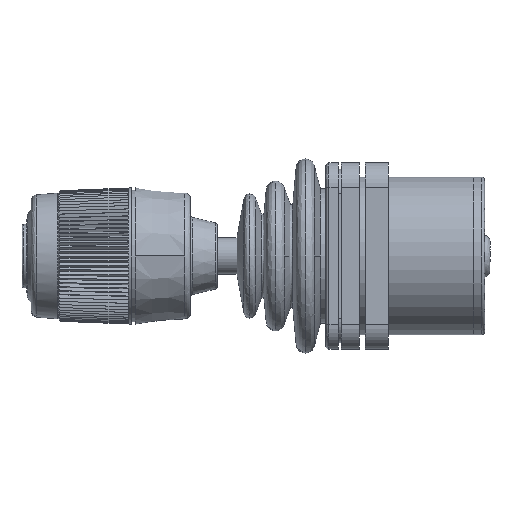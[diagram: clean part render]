
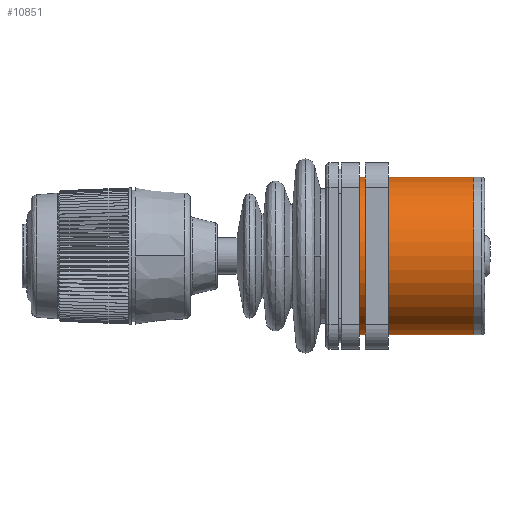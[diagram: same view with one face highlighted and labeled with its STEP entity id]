
A CAD part, left-side view. The second image highlights one B-rep face of the part: STEP entity #10851.
In plain terms, the highlighted cylindrical face has radius 20.447 mm (diameter 40.894 mm), a partial arc.
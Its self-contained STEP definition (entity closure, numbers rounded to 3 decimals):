
#95 = DIRECTION ( 'NONE',  ( 0., 0., 1. ) ) ;
#524 = VERTEX_POINT ( 'NONE', #5084 ) ;
#1484 = AXIS2_PLACEMENT_3D ( 'NONE', #7188, #22582, #9411 ) ;
#1591 = DIRECTION ( 'NONE',  ( 0., 1., 0. ) ) ;
#2117 = DIRECTION ( 'NONE',  ( 0., 1., 0. ) ) ;
#2222 = DIRECTION ( 'NONE',  ( 0., 0., 1. ) ) ;
#3053 = VERTEX_POINT ( 'NONE', #9443 ) ;
#3124 = LINE ( 'NONE', #16995, #20646 ) ;
#5020 = EDGE_CURVE ( 'NONE', #14452, #3053, #22199, .T. ) ;
#5059 = CARTESIAN_POINT ( 'NONE',  ( 0., -4.75, 20.447 ) ) ;
#5084 = CARTESIAN_POINT ( 'NONE',  ( 0., -4.75, -20.447 ) ) ;
#5778 = FACE_OUTER_BOUND ( 'NONE', #22067, .T. ) ;
#7188 = CARTESIAN_POINT ( 'NONE',  ( 0., -4.75, 0. ) ) ;
#8038 = ORIENTED_EDGE ( 'NONE', *, *, #8098, .T. ) ;
#8098 = EDGE_CURVE ( 'NONE', #3053, #12414, #26854, .T. ) ;
#9114 = ORIENTED_EDGE ( 'NONE', *, *, #5020, .T. ) ;
#9411 = DIRECTION ( 'NONE',  ( 0., 0., 1. ) ) ;
#9443 = CARTESIAN_POINT ( 'NONE',  ( 0., -34.417, 20.447 ) ) ;
#10851 = ADVANCED_FACE ( 'NONE', ( #5778 ), #10946, .T. ) ;
#10946 = CYLINDRICAL_SURFACE ( 'NONE', #20730, 20.447 ) ;
#11394 = AXIS2_PLACEMENT_3D ( 'NONE', #26455, #13276, #95 ) ;
#12414 = VERTEX_POINT ( 'NONE', #5059 ) ;
#13276 = DIRECTION ( 'NONE',  ( 0., 1., 0. ) ) ;
#13449 = DIRECTION ( 'NONE',  ( 0., 1., 0. ) ) ;
#14082 = CIRCLE ( 'NONE', #1484, 20.447 ) ;
#14452 = VERTEX_POINT ( 'NONE', #19559 ) ;
#15158 = VECTOR ( 'NONE', #13449, 1000. ) ;
#15390 = CARTESIAN_POINT ( 'NONE',  ( 0., -34.417, 0. ) ) ;
#15930 = EDGE_CURVE ( 'NONE', #14452, #524, #3124, .T. ) ;
#16995 = CARTESIAN_POINT ( 'NONE',  ( 0., -34.417, -20.447 ) ) ;
#19559 = CARTESIAN_POINT ( 'NONE',  ( 0., -34.417, -20.447 ) ) ;
#20646 = VECTOR ( 'NONE', #1591, 1000. ) ;
#20730 = AXIS2_PLACEMENT_3D ( 'NONE', #15390, #2117, #2222 ) ;
#22067 = EDGE_LOOP ( 'NONE', ( #25103, #9114, #8038, #25179 ) ) ;
#22199 = CIRCLE ( 'NONE', #11394, 20.447 ) ;
#22582 = DIRECTION ( 'NONE',  ( 0., -1., 0. ) ) ;
#24410 = CARTESIAN_POINT ( 'NONE',  ( 0., -34.417, 20.447 ) ) ;
#25103 = ORIENTED_EDGE ( 'NONE', *, *, #15930, .F. ) ;
#25179 = ORIENTED_EDGE ( 'NONE', *, *, #27352, .T. ) ;
#26455 = CARTESIAN_POINT ( 'NONE',  ( 0., -34.417, 0. ) ) ;
#26854 = LINE ( 'NONE', #24410, #15158 ) ;
#27352 = EDGE_CURVE ( 'NONE', #12414, #524, #14082, .T. ) ;
